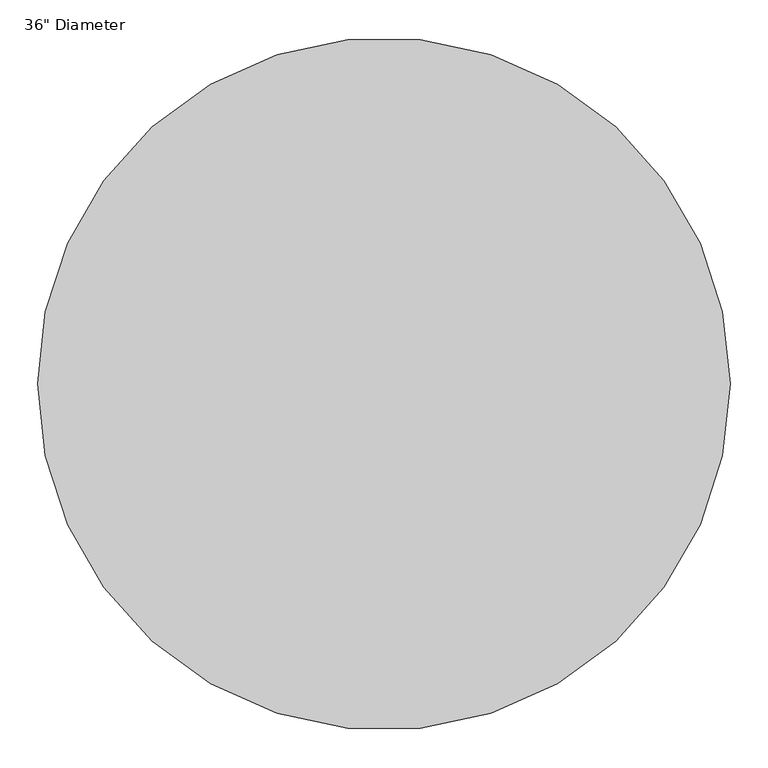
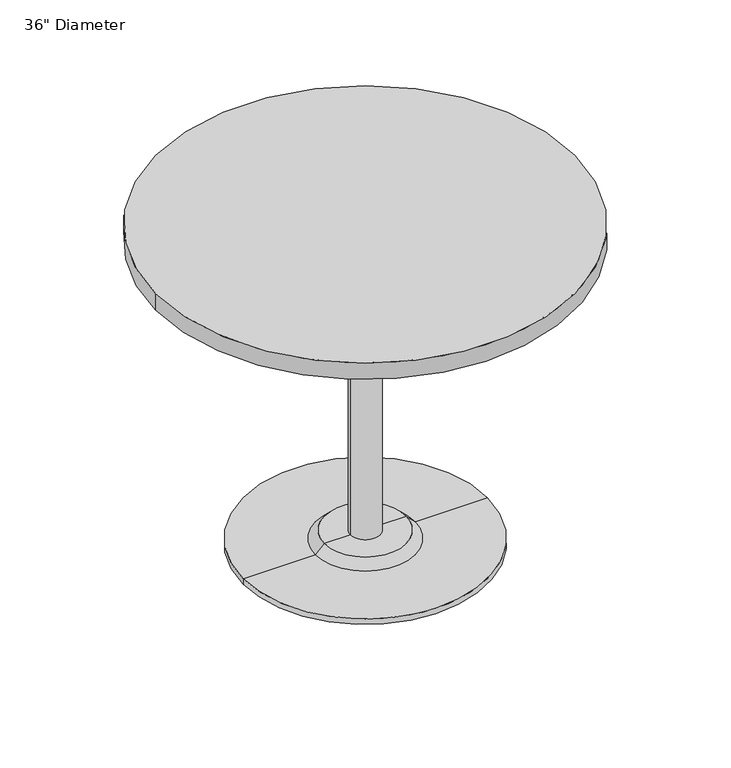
"""IFC4 building model written with IfcOpenShell, lengths in millimetres: furniture geometry."""

from ifc_helpers import new_model, si_unit, point, frame, frame_2d, origin, place, context, project, spatial, polyline, circle_curve, trimmed, segment, composite_curve, outline, extrude, source, transform, mapped, element, save
from ifc_brep_helpers import plane_surface, cylinder_surface, revolved_surface, advanced_brep


def furniture_6418d290(model_context):
    return source(origin(), model_context, "Body", "SolidModel", [
        advanced_brep(
        [(32.573978, 139.7, 698.5), (-32.573978, 139.7, 698.5), (0.0, 139.7, 698.5), (32.573978, 139.7, 31.75), (-32.573978, 139.7, 31.75), (89.723978, 139.7, 31.75), (-89.723978, 139.7, 31.75), (266.7, 139.7, 0.0), (-266.7, 139.7, 0.0), (-266.7, 139.7, 12.7), (266.7, 139.7, 12.7), (0.0, 139.7, 0.0), (108.773978, 139.7, 12.7), (-108.773978, 139.7, 12.7)],
        [
            (0, 1, circle_curve(frame((0.0, 139.7, 698.5), z_axis=(0.0, 0.0, 1.0), x_axis=(-1.0, 0.0, 0.0)), 32.573978)),
            (1, 2),
            (2, 0),
            (1, 0, circle_curve(frame((0.0, 139.7, 698.5), z_axis=(0.0, 0.0, 1.0), x_axis=(-1.0, 0.0, 0.0)), 32.573978)),
            (3, 4, circle_curve(frame((0.0, 139.7, 31.75), z_axis=(0.0, 0.0, 1.0), x_axis=(-1.0, 0.0, 0.0)), 32.573978)),
            (4, 1),
            (0, 3),
            (4, 3, circle_curve(frame((0.0, 139.7, 31.75), z_axis=(0.0, 0.0, 1.0), x_axis=(-1.0, 0.0, 0.0)), 32.573978)),
            (5, 6, circle_curve(frame((0.0, 139.7, 31.75), z_axis=(0.0, 0.0, 1.0), x_axis=(-1.0, 0.0, 0.0)), 89.723978)),
            (6, 4),
            (3, 5),
            (6, 5, circle_curve(frame((0.0, 139.7, 31.75), z_axis=(0.0, 0.0, 1.0), x_axis=(-1.0, 0.0, 0.0)), 89.723978)),
            (7, 8, circle_curve(frame((0.0, 139.7, 0.0), z_axis=(0.0, 0.0, 1.0), x_axis=(-1.0, 0.0, 0.0)), 266.7)),
            (8, 9),
            (9, 10, circle_curve(frame((0.0, 139.7, 12.7), z_axis=(0.0, 0.0, -1.0), x_axis=(-1.0, 0.0, 0.0)), 266.7)),
            (10, 7),
            (8, 7, circle_curve(frame((0.0, 139.7, 0.0), z_axis=(0.0, 0.0, 1.0), x_axis=(-1.0, 0.0, 0.0)), 266.7)),
            (10, 9, circle_curve(frame((0.0, 139.7, 12.7), z_axis=(0.0, 0.0, -1.0), x_axis=(-1.0, 0.0, 0.0)), 266.7)),
            (11, 8),
            (7, 11),
            (12, 13, circle_curve(frame((0.0, 139.7, 12.7), z_axis=(0.0, 0.0, 1.0), x_axis=(-1.0, 0.0, 0.0)), 108.773978)),
            (13, 6),
            (5, 12),
            (13, 12, circle_curve(frame((0.0, 139.7, 12.7), z_axis=(0.0, 0.0, 1.0), x_axis=(-1.0, 0.0, 0.0)), 108.773978)),
            (9, 13),
            (12, 10),
        ],
        [
            plane_surface(frame((0.0, 139.7, 698.5), z_axis=(0.0, 0.0, 1.0), x_axis=(-1.0, 0.0, 0.0))),
            cylinder_surface(frame((0.0, 139.7, 881.685757), z_axis=(0.0, 0.0, -1.0), x_axis=(-1.0, 0.0, 0.0)), 32.573978),
            plane_surface(frame((0.0, 139.7, 31.75), z_axis=(0.0, 0.0, 1.0), x_axis=(-1.0, 0.0, 0.0))),
            cylinder_surface(frame((0.0, 139.7, 881.685757), z_axis=(0.0, 0.0, -1.0), x_axis=(-1.0, 0.0, 0.0)), 266.7),
            plane_surface(frame((0.0, 139.7, 0.0), z_axis=(0.0, 0.0, -1.0), x_axis=(-1.0, 0.0, 0.0))),
            revolved_surface(polyline([(-89.723978, 139.7, 31.75), (-108.773978, 139.7, 12.7)]), (0.0, 139.7, 881.685757), (0.0, 0.0, -1.0)),
            plane_surface(frame((0.0, 139.7, 12.7), z_axis=(0.0, 0.0, 1.0), x_axis=(-1.0, 0.0, 0.0))),
        ],
        [
            (0, [[1, 2, 3]]),
            (0, [[4, -3, -2]]),
            (1, [[5, 6, -1, 7]]),
            (1, [[8, -7, -4, -6]]),
            (2, [[9, 10, -5, 11]]),
            (2, [[12, -11, -8, -10]]),
            (3, [[13, 14, 15, 16]]),
            (3, [[17, -16, 18, -14]]),
            (4, [[19, -13, 20]]),
            (4, [[-20, -17, -19]]),
            (5, [[21, 22, -9, 23]]),
            (5, [[24, -23, -12, -22]]),
            (6, [[-15, 25, -21, 26]]),
            (6, [[-18, -26, -24, -25]]),
        ],
    ),
        extrude(outline(composite_curve([segment(trimmed(circle_curve(frame_2d((0.0, 139.7)), 457.2), [point((-457.2, 139.7))], [point((457.2, 139.7))], False, "CARTESIAN"), True, "CONTINUOUS"), segment(trimmed(circle_curve(frame_2d((0.0, 139.7)), 457.2), [point((457.2, 139.7))], [point((-457.2, 139.7))], False, "CARTESIAN"), True, "CONTINUOUS")], self_intersect=False)), frame((0.0, 0.0, 698.5), z_axis=(0.0, 0.0, 1.0), x_axis=(1.0, 0.0, 0.0)), (0.0, 0.0, 1.0), 38.1),
    ])


if __name__ == "__main__":
    model = new_model("IFC4")
    model_context = context("Model", 3, world=origin())
    ifc_project = project(units=[si_unit("LENGTHUNIT", "METRE", prefix="MILLI")], contexts=[model_context])
    site = spatial("IfcSite", under=ifc_project)
    building = spatial("IfcBuilding", under=site)
    placement = place(None, origin())
    furniture_shape = furniture_6418d290(model_context)
    element("IfcFurniture", 1, ObjectType="Haworth_Masters_Table_Round : 36\" Diameter", at=placement, inside=building, context=model_context, shape_type="MappedRepresentation", body=[
        mapped(furniture_shape, transform((0.0, 0.0, 0.0), x_axis=(1.0, 0.0, 0.0), y_axis=(0.0, 1.0, 0.0), z_axis=(0.0, 0.0, 1.0))),
    ])
    save(model, "model.ifc")
